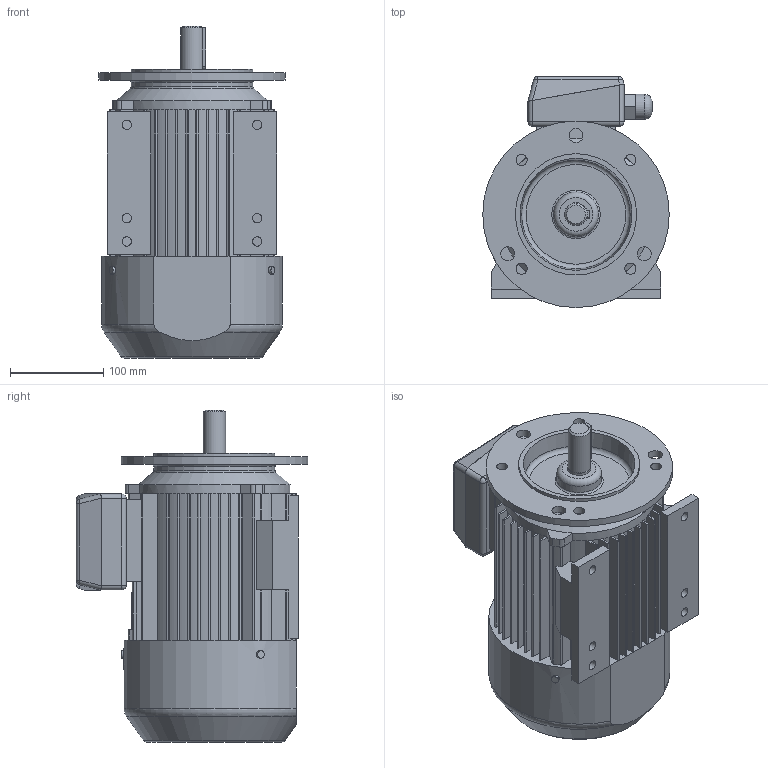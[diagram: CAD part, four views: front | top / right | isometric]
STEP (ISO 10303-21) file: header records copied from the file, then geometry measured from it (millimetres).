
FILE_DESCRIPTION(/* description */ ('Unknown'),/* implementation_level */ '2;1');
FILE_NAME(/* name */ 'Ex 3SIEL90L4,6 – 2G,2D,2G&2D – IMB35',/* time_stamp */ '2023-05-11T08:07:35+02:00',/* author */ ('Unknown'),/* organization */ ('Unknown'),/* preprocessor_version */ 'ST-DEVELOPER v16.7',/* originating_system */ 'DEX',/* authorisation */ $);
FILE_SCHEMA (('AUTOMOTIVE_DESIGN {1 0 10303 214 3 1 1}'));
Length unit declared in the file: millimetre
Products named in the file (1): 3SIEL90L4,6
Bounding box: 200 x 248 x 356 mm (x, y, z)
Volume: 8017355.6 mm3; surface area: 449467 mm2
Topology: 2 solids, 2 shells, 538 faces, 1463 edges, 938 vertices
Faces by surface type: plane 295, cylinder 145, bspline 78, torus 8, sphere 8, cone 4
Full cylindrical faces by diameter (mm): 8 x3, 10 x6, 12 x4, 15 x3, 24 x1, 25 x1, 27 x1, 48 x1, 130 x2, 200 x1
Entity records: 20323 total; most frequent: CARTESIAN_POINT 7187, ORIENTED_EDGE 2806, DIRECTION 2542, EDGE_CURVE 1403, VERTEX_POINT 920, LINE 858, VECTOR 858, AXIS2_PLACEMENT_3D 842
